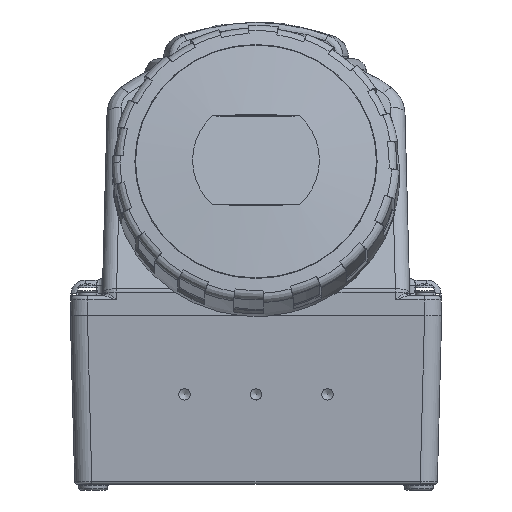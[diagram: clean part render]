
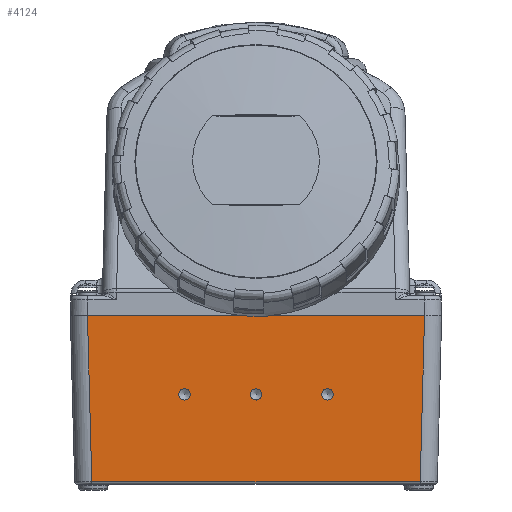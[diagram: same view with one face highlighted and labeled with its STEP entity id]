
A CAD part, front view. The second image highlights one B-rep face of the part: STEP entity #4124.
In plain terms, the highlighted planar face has unit normal (0, -1, -0.026).
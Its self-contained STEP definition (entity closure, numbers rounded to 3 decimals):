
#2184=PLANE('',#12827);
#2347=FACE_BOUND('',#5311,.T.);
#2348=FACE_BOUND('',#5312,.T.);
#2349=FACE_BOUND('',#5313,.T.);
#2350=FACE_BOUND('',#5314,.T.);
#3608=CIRCLE('',#12824,1.991);
#3609=CIRCLE('',#12825,1.991);
#3610=CIRCLE('',#12826,1.991);
#4124=ADVANCED_FACE('',(#2347,#2348,#2349,#2350),#2184,.F.);
#5311=EDGE_LOOP('',(#8838,#8839,#8840,#8841));
#5312=EDGE_LOOP('',(#8842));
#5313=EDGE_LOOP('',(#8843));
#5314=EDGE_LOOP('',(#8844));
#5754=LINE('',#30068,#6201);
#5773=LINE('',#30345,#6220);
#5775=LINE('',#30352,#6222);
#5796=LINE('',#31094,#6243);
#6201=VECTOR('',#14847,1.);
#6220=VECTOR('',#14890,1.);
#6222=VECTOR('',#14898,1.);
#6243=VECTOR('',#15043,1.);
#8838=ORIENTED_EDGE('',*,*,#11669,.T.);
#8839=ORIENTED_EDGE('',*,*,#11673,.T.);
#8840=ORIENTED_EDGE('',*,*,#11627,.F.);
#8841=ORIENTED_EDGE('',*,*,#11780,.T.);
#8842=ORIENTED_EDGE('',*,*,#11781,.F.);
#8843=ORIENTED_EDGE('',*,*,#11782,.F.);
#8844=ORIENTED_EDGE('',*,*,#11783,.F.);
#10010=VERTEX_POINT('',#30067);
#10011=VERTEX_POINT('',#30069);
#10047=VERTEX_POINT('',#30342);
#10048=VERTEX_POINT('',#30344);
#10124=VERTEX_POINT('',#31096);
#10125=VERTEX_POINT('',#31098);
#10126=VERTEX_POINT('',#31100);
#11627=EDGE_CURVE('',#10010,#10011,#5754,.T.);
#11669=EDGE_CURVE('',#10047,#10048,#5773,.T.);
#11673=EDGE_CURVE('',#10048,#10011,#5775,.T.);
#11780=EDGE_CURVE('',#10010,#10047,#5796,.T.);
#11781=EDGE_CURVE('',#10124,#10124,#3608,.T.);
#11782=EDGE_CURVE('',#10125,#10125,#3609,.T.);
#11783=EDGE_CURVE('',#10126,#10126,#3610,.T.);
#12824=AXIS2_PLACEMENT_3D('',#31095,#15044,#15045);
#12825=AXIS2_PLACEMENT_3D('',#31097,#15046,#15047);
#12826=AXIS2_PLACEMENT_3D('',#31099,#15048,#15049);
#12827=AXIS2_PLACEMENT_3D('',#31101,#15050,#15051);
#14847=DIRECTION('',(-0.026,0.026,-0.999));
#14890=DIRECTION('',(0.026,0.026,-0.999));
#14898=DIRECTION('',(1.,0.,0.));
#15043=DIRECTION('',(-1.,0.,0.));
#15044=DIRECTION('',(0.,-1.,-0.026));
#15045=DIRECTION('',(1.,0.,0.));
#15046=DIRECTION('',(0.,-1.,-0.026));
#15047=DIRECTION('',(1.,0.,0.));
#15048=DIRECTION('',(0.,-1.,-0.026));
#15049=DIRECTION('',(1.,0.,0.));
#15050=DIRECTION('',(0.,1.,0.026));
#15051=DIRECTION('',(-1.,0.,0.));
#30067=CARTESIAN_POINT('',(59.002,-130.,0.));
#30068=CARTESIAN_POINT('',(59.002,-130.,0.));
#30069=CARTESIAN_POINT('',(57.483,-128.481,-58.026));
#30342=CARTESIAN_POINT('',(-59.002,-130.,0.));
#30344=CARTESIAN_POINT('',(-57.483,-128.481,-58.026));
#30345=CARTESIAN_POINT('',(-59.002,-130.,0.));
#30352=CARTESIAN_POINT('',(-57.483,-128.481,-58.026));
#31094=CARTESIAN_POINT('',(-59.002,-130.,0.));
#31095=CARTESIAN_POINT('',(-25.,-129.279,-27.515));
#31096=CARTESIAN_POINT('',(-23.009,-129.279,-27.515));
#31097=CARTESIAN_POINT('',(0.,-129.279,-27.515));
#31098=CARTESIAN_POINT('',(1.991,-129.279,-27.515));
#31099=CARTESIAN_POINT('',(25.,-129.279,-27.515));
#31100=CARTESIAN_POINT('',(26.991,-129.279,-27.515));
#31101=CARTESIAN_POINT('',(-65.,-130.,0.));
